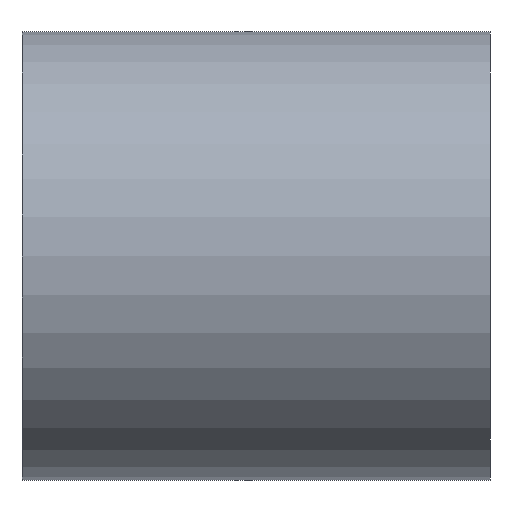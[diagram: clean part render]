
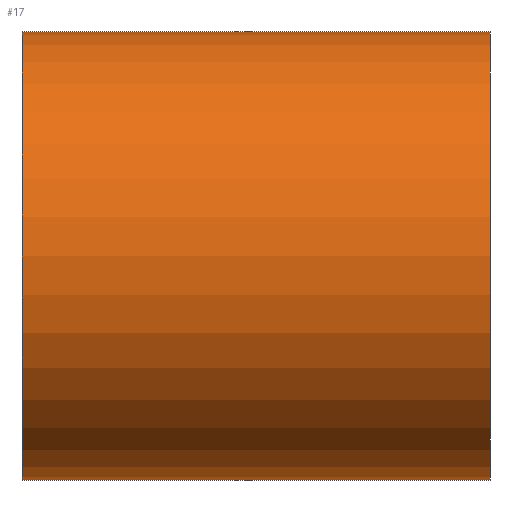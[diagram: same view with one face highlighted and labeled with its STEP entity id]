
A CAD part, left-side view. The second image highlights one B-rep face of the part: STEP entity #17.
In plain terms, the highlighted cylindrical face has radius 46 mm (diameter 92 mm), a full revolution.
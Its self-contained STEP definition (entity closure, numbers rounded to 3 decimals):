
#17 = ADVANCED_FACE('',(#18),#31,.T.);
#18 = FACE_BOUND('',#19,.T.);
#19 = EDGE_LOOP('',(#20,#54,#77,#104));
#20 = ORIENTED_EDGE('',*,*,#21,.F.);
#21 = EDGE_CURVE('',#22,#22,#24,.T.);
#22 = VERTEX_POINT('',#23);
#23 = CARTESIAN_POINT('',(46.,-48.,0.));
#24 = SURFACE_CURVE('',#25,(#30,#42),.PCURVE_S1.);
#25 = CIRCLE('',#26,46.);
#26 = AXIS2_PLACEMENT_3D('',#27,#28,#29);
#27 = CARTESIAN_POINT('',(0.,-48.,0.));
#28 = DIRECTION('',(0.,-1.,0.));
#29 = DIRECTION('',(1.,0.,0.));
#30 = PCURVE('',#31,#36);
#31 = CYLINDRICAL_SURFACE('',#32,46.);
#32 = AXIS2_PLACEMENT_3D('',#33,#34,#35);
#33 = CARTESIAN_POINT('',(0.,48.,0.));
#34 = DIRECTION('',(0.,-1.,0.));
#35 = DIRECTION('',(1.,0.,0.));
#36 = DEFINITIONAL_REPRESENTATION('',(#37),#41);
#37 = LINE('',#38,#39);
#38 = CARTESIAN_POINT('',(0.,96.));
#39 = VECTOR('',#40,1.);
#40 = DIRECTION('',(1.,0.));
#41 = ( GEOMETRIC_REPRESENTATION_CONTEXT(2) 
PARAMETRIC_REPRESENTATION_CONTEXT() REPRESENTATION_CONTEXT('2D SPACE',''
  ) );
#42 = PCURVE('',#43,#48);
#43 = PLANE('',#44);
#44 = AXIS2_PLACEMENT_3D('',#45,#46,#47);
#45 = CARTESIAN_POINT('',(0.,-48.,0.));
#46 = DIRECTION('',(0.,-1.,0.));
#47 = DIRECTION('',(1.,0.,0.));
#48 = DEFINITIONAL_REPRESENTATION('',(#49),#53);
#49 = CIRCLE('',#50,46.);
#50 = AXIS2_PLACEMENT_2D('',#51,#52);
#51 = CARTESIAN_POINT('',(0.,0.));
#52 = DIRECTION('',(1.,0.));
#53 = ( GEOMETRIC_REPRESENTATION_CONTEXT(2) 
PARAMETRIC_REPRESENTATION_CONTEXT() REPRESENTATION_CONTEXT('2D SPACE',''
  ) );
#54 = ORIENTED_EDGE('',*,*,#55,.F.);
#55 = EDGE_CURVE('',#56,#22,#58,.T.);
#56 = VERTEX_POINT('',#57);
#57 = CARTESIAN_POINT('',(46.,48.,0.));
#58 = SEAM_CURVE('',#59,(#63,#70),.PCURVE_S1.);
#59 = LINE('',#60,#61);
#60 = CARTESIAN_POINT('',(46.,48.,0.));
#61 = VECTOR('',#62,1.);
#62 = DIRECTION('',(0.,-1.,0.));
#63 = PCURVE('',#31,#64);
#64 = DEFINITIONAL_REPRESENTATION('',(#65),#69);
#65 = LINE('',#66,#67);
#66 = CARTESIAN_POINT('',(6.283,-0.));
#67 = VECTOR('',#68,1.);
#68 = DIRECTION('',(0.,1.));
#69 = ( GEOMETRIC_REPRESENTATION_CONTEXT(2) 
PARAMETRIC_REPRESENTATION_CONTEXT() REPRESENTATION_CONTEXT('2D SPACE',''
  ) );
#70 = PCURVE('',#31,#71);
#71 = DEFINITIONAL_REPRESENTATION('',(#72),#76);
#72 = LINE('',#73,#74);
#73 = CARTESIAN_POINT('',(0.,-0.));
#74 = VECTOR('',#75,1.);
#75 = DIRECTION('',(0.,1.));
#76 = ( GEOMETRIC_REPRESENTATION_CONTEXT(2) 
PARAMETRIC_REPRESENTATION_CONTEXT() REPRESENTATION_CONTEXT('2D SPACE',''
  ) );
#77 = ORIENTED_EDGE('',*,*,#78,.T.);
#78 = EDGE_CURVE('',#56,#56,#79,.T.);
#79 = SURFACE_CURVE('',#80,(#85,#92),.PCURVE_S1.);
#80 = CIRCLE('',#81,46.);
#81 = AXIS2_PLACEMENT_3D('',#82,#83,#84);
#82 = CARTESIAN_POINT('',(0.,48.,0.));
#83 = DIRECTION('',(0.,-1.,0.));
#84 = DIRECTION('',(1.,0.,0.));
#85 = PCURVE('',#31,#86);
#86 = DEFINITIONAL_REPRESENTATION('',(#87),#91);
#87 = LINE('',#88,#89);
#88 = CARTESIAN_POINT('',(0.,0.));
#89 = VECTOR('',#90,1.);
#90 = DIRECTION('',(1.,0.));
#91 = ( GEOMETRIC_REPRESENTATION_CONTEXT(2) 
PARAMETRIC_REPRESENTATION_CONTEXT() REPRESENTATION_CONTEXT('2D SPACE',''
  ) );
#92 = PCURVE('',#93,#98);
#93 = PLANE('',#94);
#94 = AXIS2_PLACEMENT_3D('',#95,#96,#97);
#95 = CARTESIAN_POINT('',(0.,48.,0.));
#96 = DIRECTION('',(0.,-1.,0.));
#97 = DIRECTION('',(1.,0.,0.));
#98 = DEFINITIONAL_REPRESENTATION('',(#99),#103);
#99 = CIRCLE('',#100,46.);
#100 = AXIS2_PLACEMENT_2D('',#101,#102);
#101 = CARTESIAN_POINT('',(0.,0.));
#102 = DIRECTION('',(1.,0.));
#103 = ( GEOMETRIC_REPRESENTATION_CONTEXT(2) 
PARAMETRIC_REPRESENTATION_CONTEXT() REPRESENTATION_CONTEXT('2D SPACE',''
  ) );
#104 = ORIENTED_EDGE('',*,*,#55,.T.);
